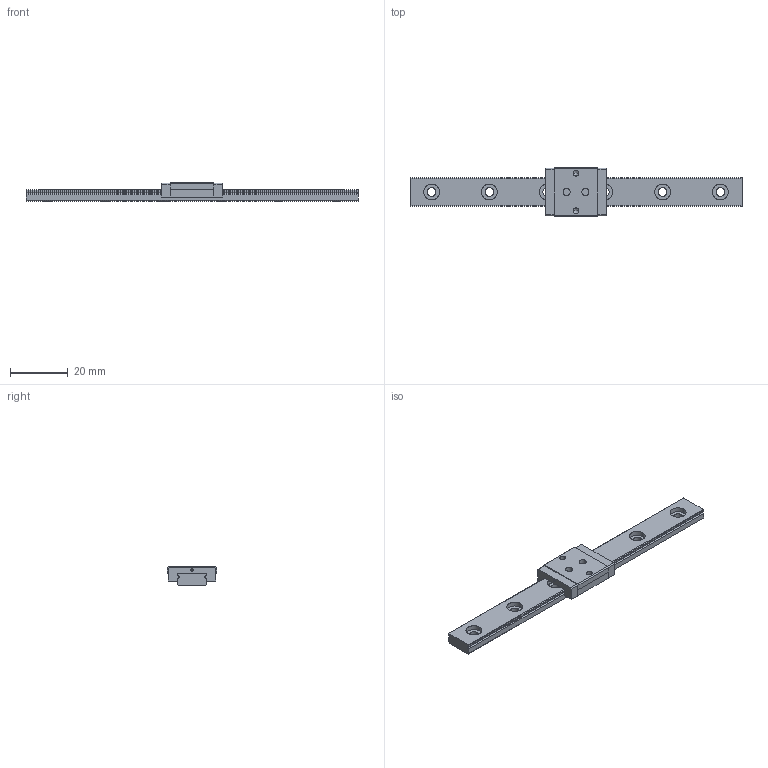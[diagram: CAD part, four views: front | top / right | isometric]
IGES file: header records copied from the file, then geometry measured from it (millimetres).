
Global section: file name: No Iges File Name specified; native system: AutoDesk Inventor R11.0; preprocessor: AutoDesk Inventor Iges Exporter R11.0; author: No Author specified; organization: No Organization specified; date: 20150221.131505; units: millimetre
Bounding box: 115 x 17 x 6.5 mm (x, y, z)
Surface area: 4814.4 mm2 (no closed solid volume)
Topology: 0 solids, 0 shells, 104 faces, 704 edges, 700 vertices
Faces by surface type: bspline 104
